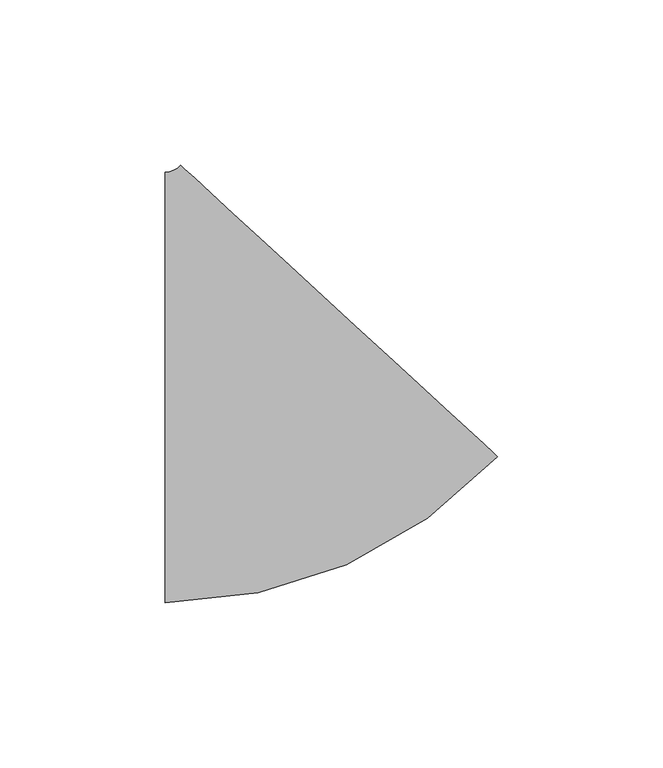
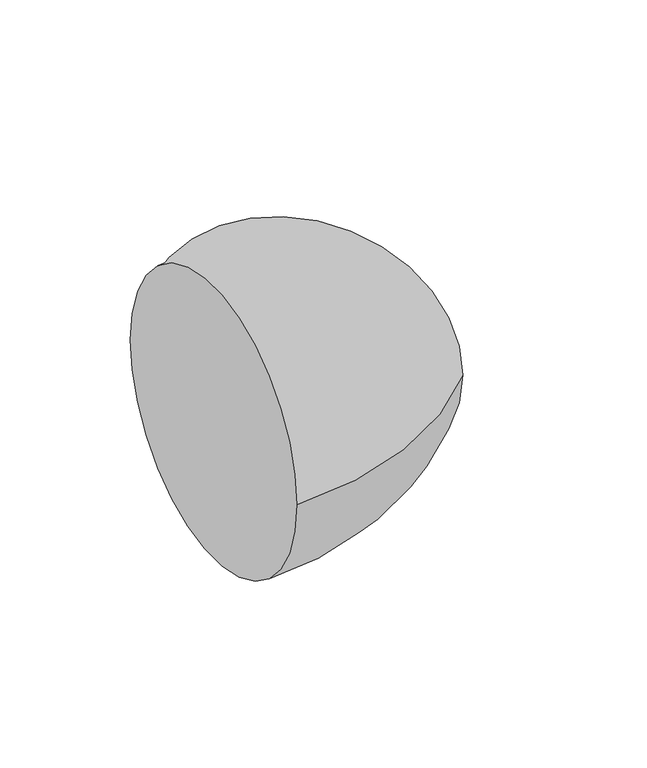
"""IFC4 building model written with IfcOpenShell, lengths in millimetres: pipe fitting geometry, M_Codo - Genérico : Estándar."""

from ifc_helpers import new_model, si_unit, point, frame, origin, place, context, project, spatial, circle_curve, ellipse_curve, trimmed, source, transform, mapped, element, save
from ifc_brep_helpers import plane_surface, revolved_surface, advanced_brep


def pipe_fitting_71e73916(model_context):
    return source(origin(), model_context, "Body", "AdvancedBrep", [
        advanced_brep(
        [(-31.3789932, -65.0875, 0.0), (-31.3789932, 65.0875, 0.0), (69.1602967, -20.9255165, 0.0), (-26.7027472, 67.1415457, 0.0)],
        [
            (0, 1, circle_curve(frame((-31.3789932, 0.0, 0.0), z_axis=(-1.0, 0.0, 0.0), x_axis=(0.0, 1.0, 0.0)), 65.0875)),
            (1, 0, circle_curve(frame((-31.3789932, 0.0, 0.0), z_axis=(-1.0, 0.0, 0.0), x_axis=(0.0, 1.0, 0.0)), 65.0875)),
            (2, 3, circle_curve(frame((21.2287747, 23.1080146, 0.0), z_axis=(0.6765282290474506, 0.7364166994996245, 0.0), x_axis=(-0.7364166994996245, 0.6765282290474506, 0.0)), 65.0875)),
            (3, 2, circle_curve(frame((21.2287747, 23.1080146, 0.0), z_axis=(0.6765282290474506, 0.7364166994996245, 0.0), x_axis=(-0.7364166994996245, 0.6765282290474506, 0.0)), 65.0875)),
            (3, 1, circle_curve(frame((-31.3789932, 71.4375, 0.0), z_axis=(0.0, 0.0, -1.0), x_axis=(0.0, -1.0, 0.0)), 6.35)),
            (0, 2, circle_curve(frame((-31.3789932, 71.4375, 0.0), z_axis=(0.0, 0.0, 1.0), x_axis=(0.0, -1.0, 0.0)), 136.525)),
        ],
        [
            plane_surface(frame((-31.3789932, 0.0, 0.0), z_axis=(-1.0, 0.0, 0.0), x_axis=(0.0, 0.0, 1.0))),
            plane_surface(frame((21.2287747, 23.1080146, 0.0), z_axis=(0.6765282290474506, 0.7364166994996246, 0.0), x_axis=(0.0, 0.0, 1.0))),
            revolved_surface(trimmed(ellipse_curve(frame((-31.3789932, 0.0, 0.0), z_axis=(-1.0, 0.0, 0.0), x_axis=(0.0, 1.0, 0.0)), 65.0875, 65.0875), [point((-31.3789932, -65.0875, 0.0))], [point((-31.3789932, 65.0875, 0.0))], True, "CARTESIAN"), (-31.3789932, 71.4375, 0.0), (0.0, 0.0, 1.0)),
            revolved_surface(trimmed(ellipse_curve(frame((-31.3789932, 0.0, 0.0), z_axis=(-1.0, 0.0, 0.0), x_axis=(0.0, 1.0, 0.0)), 65.0875, 65.0875), [point((-31.3789932, 65.0875, 0.0))], [point((-31.3789932, -65.0875, 0.0))], True, "CARTESIAN"), (-31.3789932, 71.4375, 0.0), (0.0, 0.0, 1.0)),
        ],
        [
            (0, [[1, 2]]),
            (1, [[3, 4]]),
            (2, [[5, -1, 6, -4]]),
            (3, [[-6, -2, -5, -3]]),
        ],
    ),
    ])


if __name__ == "__main__":
    model = new_model("IFC4")
    model_context = context("Model", 3, world=origin())
    ifc_project = project(units=[si_unit("LENGTHUNIT", "METRE", prefix="MILLI")], contexts=[model_context])
    site = spatial("IfcSite", under=ifc_project)
    building = spatial("IfcBuilding", under=site)
    placement = place(None, origin())
    pipe_fitting_shape = pipe_fitting_71e73916(model_context)
    element("IfcPipeFitting", 1, ObjectType="M_Codo - Genérico : Estándar", at=placement, inside=building, context=model_context, shape_type="MappedRepresentation", body=[
        mapped(pipe_fitting_shape, transform((0.0, 0.0, 0.0), x_axis=(1.0, 0.0, 0.0), y_axis=(0.0, 1.0, 0.0), z_axis=(0.0, 0.0, 1.0))),
    ])
    save(model, "model.ifc")
